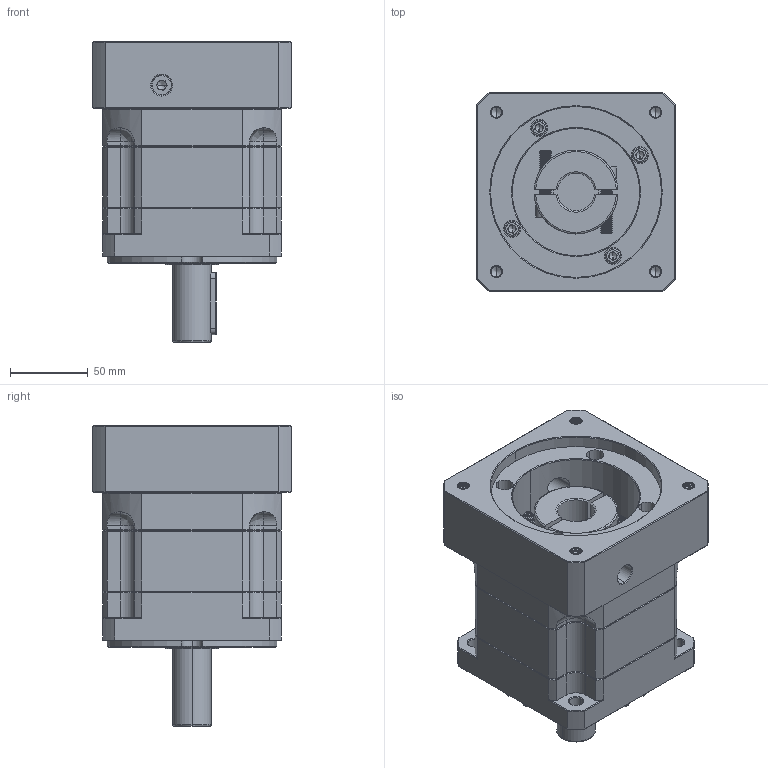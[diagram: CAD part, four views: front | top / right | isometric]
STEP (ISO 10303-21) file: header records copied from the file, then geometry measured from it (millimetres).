
FILE_DESCRIPTION (( 'STEP AP214' ), '1' );
FILE_NAME ('ZB115A-D25-L1-P2-24-110-145-M8.step', '2023-08-26T06:22:05', ( '' ), ( '' ), 'SwSTEP 2.0', 'SolidWorks 2016', '' );
FILE_SCHEMA (( 'AUTOMOTIVE_DESIGN' ));
Length unit declared in the file: millimetre
Products named in the file (1): ZB115A-D25-L1-P2-24-110-145-M8
Bounding box: 128 x 128 x 193.5 mm (x, y, z)
Volume: 1611354.4 mm3; surface area: 177849.9 mm2
Topology: 6 solids, 6 shells, 2390 faces, 6267 edges, 3976 vertices
Faces by surface type: plane 1143, cylinder 439, bspline 423, cone 365, torus 20
Entity records: 128666 total; most frequent: CARTESIAN_POINT 47120, ORIENTED_EDGE 12466, DIRECTION 9863, EDGE_CURVE 6233, LINE 3993, VECTOR 3993, VERTEX_POINT 3976, AXIS2_PLACEMENT_3D 2935
